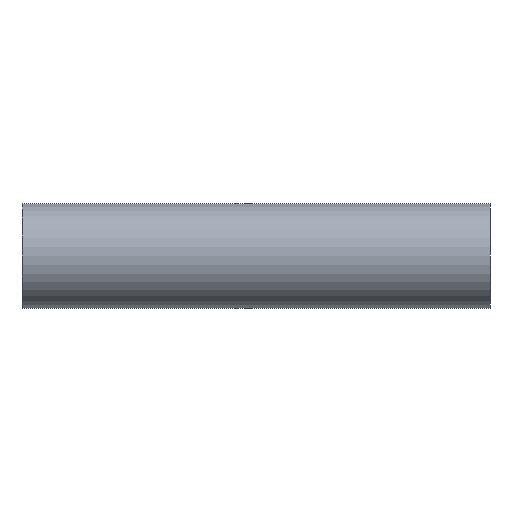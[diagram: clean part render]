
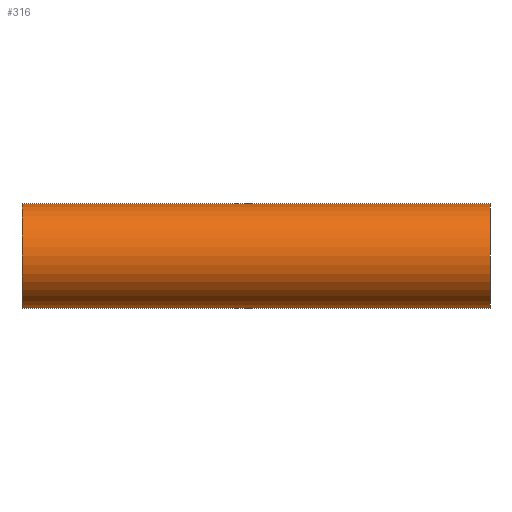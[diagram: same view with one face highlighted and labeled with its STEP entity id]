
A CAD part, front view. The second image highlights one B-rep face of the part: STEP entity #316.
In plain terms, the highlighted cylindrical face has radius 12.7 mm (diameter 25.4 mm), a partial arc.
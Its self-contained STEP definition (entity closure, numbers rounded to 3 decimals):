
#4 = VERTEX_POINT ( 'NONE', #304 ) ;
#6 = LINE ( 'NONE', #74, #121 ) ;
#9 = AXIS2_PLACEMENT_3D ( 'NONE', #276, #52, #45 ) ;
#10 = LINE ( 'NONE', #281, #115 ) ;
#33 = CARTESIAN_POINT ( 'NONE',  ( 56.7, 0., 0. ) ) ;
#38 = AXIS2_PLACEMENT_3D ( 'NONE', #296, #428, #156 ) ;
#40 = ORIENTED_EDGE ( 'NONE', *, *, #479, .F. ) ;
#45 = DIRECTION ( 'NONE',  ( 0., 0., 1. ) ) ;
#52 = DIRECTION ( 'NONE',  ( 1., 0., 0. ) ) ;
#74 = CARTESIAN_POINT ( 'NONE',  ( 92.621, 0., 12.7 ) ) ;
#75 = ORIENTED_EDGE ( 'NONE', *, *, #256, .T. ) ;
#81 = CARTESIAN_POINT ( 'NONE',  ( 56.7, 0., -12.7 ) ) ;
#91 = EDGE_LOOP ( 'NONE', ( #40, #75, #424, #278 ) ) ;
#109 = CYLINDRICAL_SURFACE ( 'NONE', #38, 12.7 ) ;
#115 = VECTOR ( 'NONE', #245, 1000. ) ;
#121 = VECTOR ( 'NONE', #184, 1000. ) ;
#156 = DIRECTION ( 'NONE',  ( 0., 0., 1. ) ) ;
#184 = DIRECTION ( 'NONE',  ( -1., 0., 0. ) ) ;
#206 = CIRCLE ( 'NONE', #378, 12.7 ) ;
#223 = FACE_OUTER_BOUND ( 'NONE', #91, .T. ) ;
#233 = EDGE_CURVE ( 'NONE', #238, #4, #6, .T. ) ;
#238 = VERTEX_POINT ( 'NONE', #503 ) ;
#245 = DIRECTION ( 'NONE',  ( -1., 0., 0. ) ) ;
#248 = VERTEX_POINT ( 'NONE', #370 ) ;
#256 = EDGE_CURVE ( 'NONE', #374, #238, #206, .T. ) ;
#260 = DIRECTION ( 'NONE',  ( -1., 0., 0. ) ) ;
#276 = CARTESIAN_POINT ( 'NONE',  ( -56.7, 0., 0. ) ) ;
#278 = ORIENTED_EDGE ( 'NONE', *, *, #334, .T. ) ;
#281 = CARTESIAN_POINT ( 'NONE',  ( 92.621, 0., -12.7 ) ) ;
#296 = CARTESIAN_POINT ( 'NONE',  ( 92.621, 0., 0. ) ) ;
#304 = CARTESIAN_POINT ( 'NONE',  ( -56.7, 0., 12.7 ) ) ;
#316 = ADVANCED_FACE ( 'NONE', ( #223 ), #109, .T. ) ;
#334 = EDGE_CURVE ( 'NONE', #4, #248, #417, .T. ) ;
#370 = CARTESIAN_POINT ( 'NONE',  ( -56.7, 0., -12.7 ) ) ;
#374 = VERTEX_POINT ( 'NONE', #81 ) ;
#378 = AXIS2_PLACEMENT_3D ( 'NONE', #33, #260, #501 ) ;
#417 = CIRCLE ( 'NONE', #9, 12.7 ) ;
#424 = ORIENTED_EDGE ( 'NONE', *, *, #233, .T. ) ;
#428 = DIRECTION ( 'NONE',  ( -1., 0., 0. ) ) ;
#479 = EDGE_CURVE ( 'NONE', #374, #248, #10, .T. ) ;
#501 = DIRECTION ( 'NONE',  ( 0., 0., 1. ) ) ;
#503 = CARTESIAN_POINT ( 'NONE',  ( 56.7, 0., 12.7 ) ) ;
